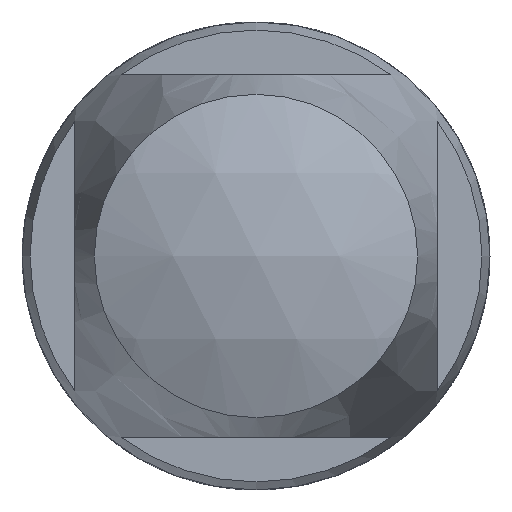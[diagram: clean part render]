
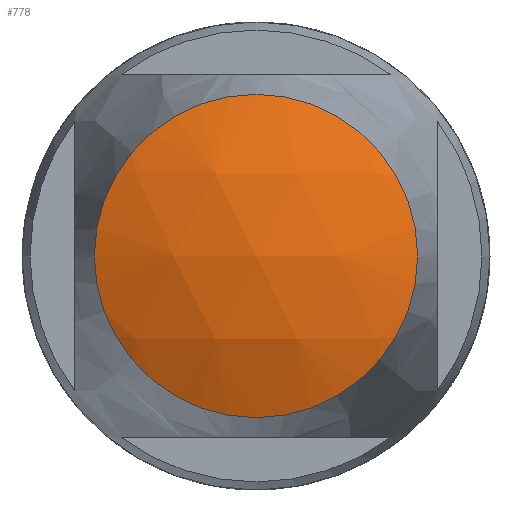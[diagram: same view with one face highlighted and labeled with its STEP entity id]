
A CAD part, front view. The second image highlights one B-rep face of the part: STEP entity #778.
In plain terms, the highlighted spherical face has radius 10.422 mm.
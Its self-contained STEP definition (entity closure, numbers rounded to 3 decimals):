
#19=SPHERICAL_SURFACE('',#861,10.422);
#263=FACE_OUTER_BOUND('',#324,.T.);
#324=EDGE_LOOP('',(#705));
#364=CIRCLE('',#862,4.455);
#434=VERTEX_POINT('',#1514);
#532=EDGE_CURVE('',#434,#434,#364,.T.);
#705=ORIENTED_EDGE('',*,*,#532,.F.);
#778=ADVANCED_FACE('',(#263),#19,.T.);
#861=AXIS2_PLACEMENT_3D('',#1513,#1073,#1074);
#862=AXIS2_PLACEMENT_3D('',#1515,#1075,#1076);
#1073=DIRECTION('center_axis',(0.,0.,1.));
#1074=DIRECTION('ref_axis',(1.,0.,0.));
#1075=DIRECTION('center_axis',(0.,1.,0.));
#1076=DIRECTION('ref_axis',(-1.,0.,0.));
#1513=CARTESIAN_POINT('Origin',(0.,-28.678,
0.));
#1514=CARTESIAN_POINT('',(-4.455,-38.1,0.));
#1515=CARTESIAN_POINT('Origin',(0.,-38.1,0.));
